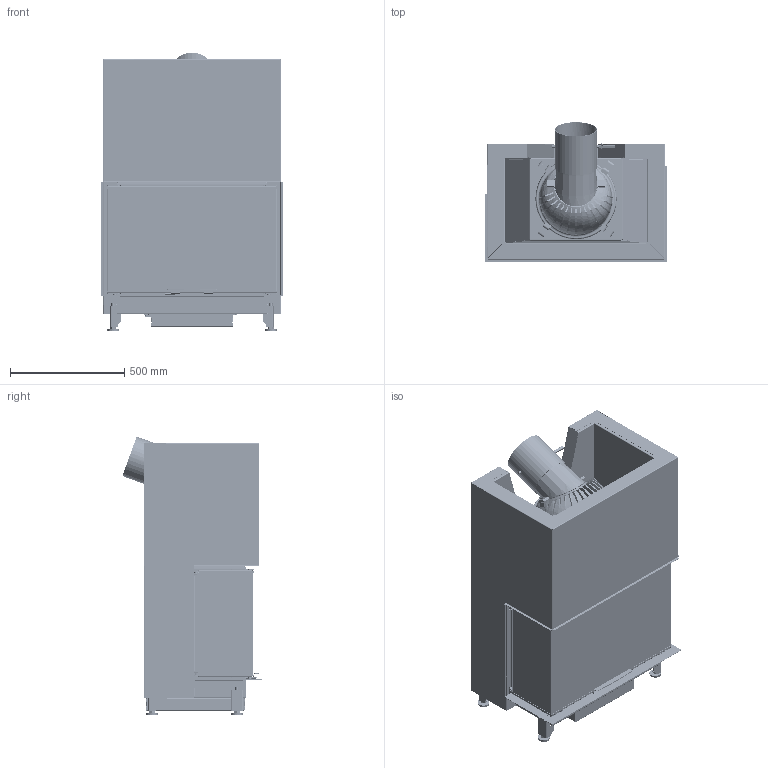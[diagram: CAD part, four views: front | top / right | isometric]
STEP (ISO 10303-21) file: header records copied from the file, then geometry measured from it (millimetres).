
FILE_DESCRIPTION(/* description */ (''),/* implementation_level */ '2;1');
FILE_NAME(/* name */ 'C:\ADSK_DM_WS\CAD_3D\03 Geraete\RAS 50x80x42\Zeichnungen\2023-01667.stp',/* time_stamp */ '2023-05-02T07:25:31+02:00',/* author */ ('CPI'),/* organization */ (''),/* preprocessor_version */ 'ST-DEVELOPER v18.1',/* originating_system */ 'Autodesk Inventor 2022',/* authorisation */ '');
FILE_SCHEMA (('AUTOMOTIVE_DESIGN { 1 0 10303 214 3 1 1 }'));
Products named in the file (8): 2023-01667; 2023-01662; 2023-01658; 2023-01657; 2023-01636; 2023-01634; 2023-01633; 2022-04522
Assembly tree (7 placements, depth 2):
  2023-01667
    2023-01662
    2023-01658
    2023-01657
    2023-01636
    2023-01634
    2023-01633
    2022-04522
Bounding box: 800 x 609.77 x 1220.72 mm (x, y, z)
Volume: 34344550.8 mm3; surface area: 16722041.5 mm2
Topology: 24 solids, 49 shells, 8930 faces, 24423 edges, 15487 vertices
Faces by surface type: plane 5340, cylinder 3005, bspline 304, cone 183, torus 97, sphere 1
Full cylindrical faces by diameter (mm): 3.242 x6, 4 x2, 4.5 x4, 4.8 x6, 5 x10, 6 x4, 6.03 x2, 7.5 x8, 7.8 x2, 7.9 x2, 8 x4, 8.2 x1, 9 x2, 9.5 x18, 10 x9, 10.21 x4, 11 x5, 11.192 x2, 11.4 x4, 12 x7, 13.502 x4, 14 x2, 15 x2, 16 x17, 18 x4, 20 x4, 30 x4, 163 x1, 333 x1, 339 x1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
Entity records: 299097 total; most frequent: CARTESIAN_POINT 65773, ORIENTED_EDGE 48708, DIRECTION 47437, EDGE_CURVE 24442, LINE 16015, VECTOR 16015, AXIS2_PLACEMENT_3D 15711, VERTEX_POINT 15491
